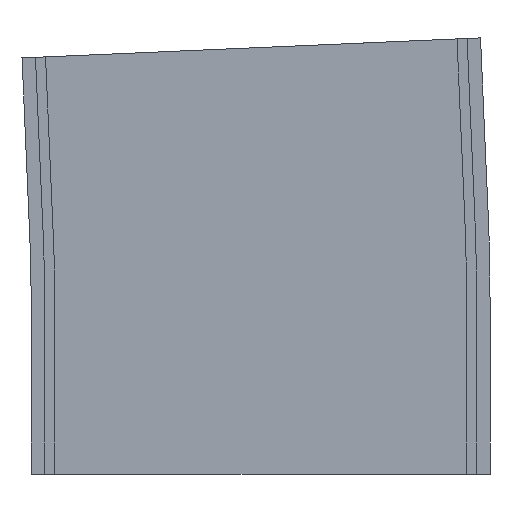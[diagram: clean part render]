
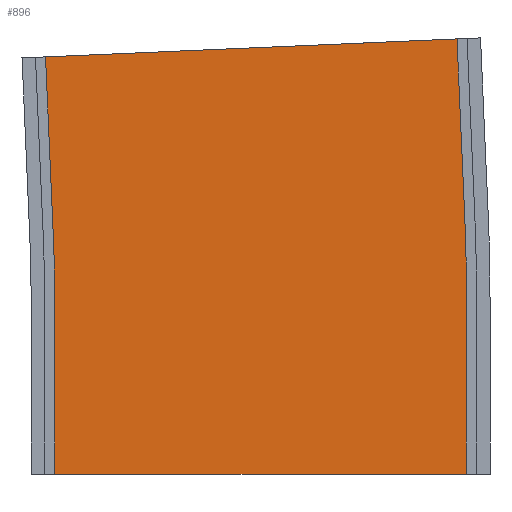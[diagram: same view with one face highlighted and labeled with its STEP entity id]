
A CAD part, left-side view. The second image highlights one B-rep face of the part: STEP entity #896.
In plain terms, the highlighted planar face has unit normal (-1, 0, 0).
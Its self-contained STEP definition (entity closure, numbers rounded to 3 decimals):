
#3 = DIRECTION ( 'NONE',  ( 0., 0., 1. ) ) ;
#27 = VERTEX_POINT ( 'NONE', #1141 ) ;
#43 = CIRCLE ( 'NONE', #237, 438.75 ) ;
#49 = EDGE_CURVE ( 'NONE', #51, #1293, #54, .T. ) ;
#51 = VERTEX_POINT ( 'NONE', #1049 ) ;
#54 = LINE ( 'NONE', #503, #76 ) ;
#72 = EDGE_CURVE ( 'NONE', #1127, #51, #663, .T. ) ;
#74 = CARTESIAN_POINT ( 'NONE',  ( -211.5, -61.25, 0. ) ) ;
#76 = VECTOR ( 'NONE', #834, 1000. ) ;
#99 = EDGE_CURVE ( 'NONE', #474, #773, #180, .T. ) ;
#142 = DIRECTION ( 'NONE',  ( 0., 0.044, 0.999 ) ) ;
#147 = AXIS2_PLACEMENT_3D ( 'NONE', #1261, #1364, #1135 ) ;
#152 = ORIENTED_EDGE ( 'NONE', *, *, #760, .F. ) ;
#156 = PLANE ( 'NONE',  #488 ) ;
#180 = LINE ( 'NONE', #402, #1298 ) ;
#190 = LINE ( 'NONE', #511, #1172 ) ;
#212 = CARTESIAN_POINT ( 'NONE',  ( -211.5, -58.426, 129.431 ) ) ;
#216 = ORIENTED_EDGE ( 'NONE', *, *, #99, .T. ) ;
#237 = AXIS2_PLACEMENT_3D ( 'NONE', #1306, #317, #3 ) ;
#265 = DIRECTION ( 'NONE',  ( 1., 0., 0. ) ) ;
#295 = DIRECTION ( 'NONE',  ( 0., 0., -1. ) ) ;
#317 = DIRECTION ( 'NONE',  ( -1., 0., 0. ) ) ;
#371 = EDGE_CURVE ( 'NONE', #27, #1208, #43, .T. ) ;
#376 = DIRECTION ( 'NONE',  ( 0., 1., 0. ) ) ;
#402 = CARTESIAN_POINT ( 'NONE',  ( -211.5, -61.25, 0. ) ) ;
#413 = VECTOR ( 'NONE', #513, 1000. ) ;
#420 = EDGE_LOOP ( 'NONE', ( #216, #152, #1401, #514, #969, #939, #1177, #1199 ) ) ;
#474 = VERTEX_POINT ( 'NONE', #676 ) ;
#488 = AXIS2_PLACEMENT_3D ( 'NONE', #1027, #265, #376 ) ;
#503 = CARTESIAN_POINT ( 'NONE',  ( -211.5, -60.716, 76.981 ) ) ;
#511 = CARTESIAN_POINT ( 'NONE',  ( -211.5, -61.25, 52.5 ) ) ;
#513 = DIRECTION ( 'NONE',  ( 0., 0., -1. ) ) ;
#514 = ORIENTED_EDGE ( 'NONE', *, *, #49, .T. ) ;
#515 = VECTOR ( 'NONE', #142, 1000. ) ;
#528 = CARTESIAN_POINT ( 'NONE',  ( -211.5, 61.25, 52.5 ) ) ;
#649 = LINE ( 'NONE', #784, #515 ) ;
#663 = CIRCLE ( 'NONE', #147, 561.25 ) ;
#676 = CARTESIAN_POINT ( 'NONE',  ( -211.5, 61.25, 0. ) ) ;
#700 = LINE ( 'NONE', #528, #413 ) ;
#720 = LINE ( 'NONE', #1059, #1275 ) ;
#733 = DIRECTION ( 'NONE',  ( 0., -0.999, 0.044 ) ) ;
#760 = EDGE_CURVE ( 'NONE', #1127, #773, #190, .T. ) ;
#773 = VERTEX_POINT ( 'NONE', #74 ) ;
#784 = CARTESIAN_POINT ( 'NONE',  ( -211.5, 61.668, 71.638 ) ) ;
#826 = DIRECTION ( 'NONE',  ( 0., -1., 0. ) ) ;
#834 = DIRECTION ( 'NONE',  ( 0., 0.044, 0.999 ) ) ;
#896 = ADVANCED_FACE ( 'NONE', ( #1153 ), #156, .F. ) ;
#939 = ORIENTED_EDGE ( 'NONE', *, *, #1345, .F. ) ;
#967 = EDGE_CURVE ( 'NONE', #1286, #1293, #720, .T. ) ;
#969 = ORIENTED_EDGE ( 'NONE', *, *, #967, .F. ) ;
#986 = CARTESIAN_POINT ( 'NONE',  ( -211.5, 63.958, 124.088 ) ) ;
#990 = EDGE_CURVE ( 'NONE', #27, #474, #700, .T. ) ;
#1027 = CARTESIAN_POINT ( 'NONE',  ( -211.5, -61.25, 52.5 ) ) ;
#1049 = CARTESIAN_POINT ( 'NONE',  ( -211.5, -60.716, 76.981 ) ) ;
#1059 = CARTESIAN_POINT ( 'NONE',  ( -211.5, -58.426, 129.431 ) ) ;
#1063 = CARTESIAN_POINT ( 'NONE',  ( -211.5, -61.25, 52.5 ) ) ;
#1075 = CARTESIAN_POINT ( 'NONE',  ( -211.5, 61.668, 71.638 ) ) ;
#1127 = VERTEX_POINT ( 'NONE', #1063 ) ;
#1135 = DIRECTION ( 'NONE',  ( 0., 0., 1. ) ) ;
#1141 = CARTESIAN_POINT ( 'NONE',  ( -211.5, 61.25, 52.5 ) ) ;
#1153 = FACE_OUTER_BOUND ( 'NONE', #420, .T. ) ;
#1172 = VECTOR ( 'NONE', #295, 1000. ) ;
#1177 = ORIENTED_EDGE ( 'NONE', *, *, #371, .F. ) ;
#1199 = ORIENTED_EDGE ( 'NONE', *, *, #990, .T. ) ;
#1208 = VERTEX_POINT ( 'NONE', #1075 ) ;
#1261 = CARTESIAN_POINT ( 'NONE',  ( -211.5, 500., 52.5 ) ) ;
#1275 = VECTOR ( 'NONE', #733, 1000. ) ;
#1286 = VERTEX_POINT ( 'NONE', #986 ) ;
#1293 = VERTEX_POINT ( 'NONE', #212 ) ;
#1298 = VECTOR ( 'NONE', #826, 1000. ) ;
#1306 = CARTESIAN_POINT ( 'NONE',  ( -211.5, 500., 52.5 ) ) ;
#1345 = EDGE_CURVE ( 'NONE', #1208, #1286, #649, .T. ) ;
#1364 = DIRECTION ( 'NONE',  ( -1., 0., 0. ) ) ;
#1401 = ORIENTED_EDGE ( 'NONE', *, *, #72, .T. ) ;
